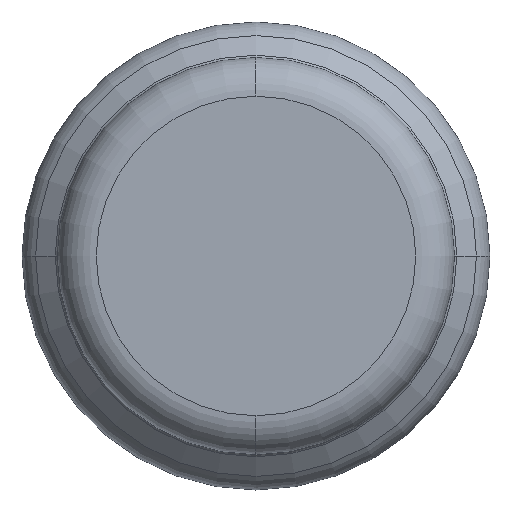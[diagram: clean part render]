
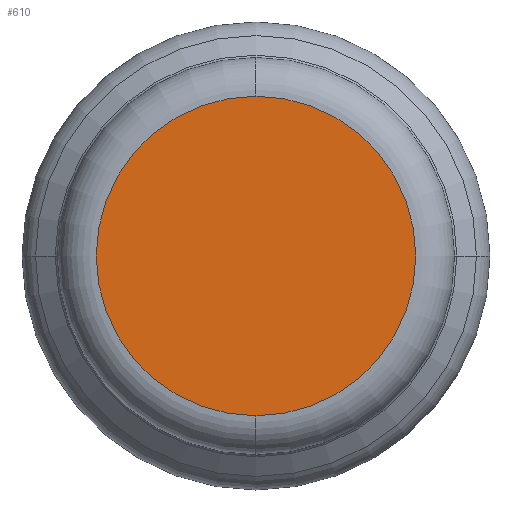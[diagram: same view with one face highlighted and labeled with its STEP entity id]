
A CAD part, front view. The second image highlights one B-rep face of the part: STEP entity #610.
In plain terms, the highlighted planar face has unit normal (0, -1, 0).
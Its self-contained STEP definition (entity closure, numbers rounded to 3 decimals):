
#370=CARTESIAN_POINT('',(24.563,-7.05,0.)
);
#380=DIRECTION('',(0.,-1.,0.));
#390=DIRECTION('',(1.,0.,0.));
#400=AXIS2_PLACEMENT_3D('',#370,#380,#390);
#410=PLANE('',#400);
#420=CARTESIAN_POINT('',(9.65,-7.05,0.));
#430=DIRECTION('',(0.,-1.,0.));
#440=DIRECTION('',(0.,0.,1.));
#450=AXIS2_PLACEMENT_3D('',#420,#430,#440);
#460=CIRCLE('',#450,12.6);
#470=CARTESIAN_POINT('',(9.65,-7.05,12.6));
#480=VERTEX_POINT('',#470);
#490=CARTESIAN_POINT('',(9.65,-7.05,-12.6));
#500=VERTEX_POINT('',#490);
#510=EDGE_CURVE('',#480,#500,#460,.T.);
#520=ORIENTED_EDGE('',*,*,#510,.T.);
#530=CARTESIAN_POINT('',(22.25,-7.05,0.));
#540=VERTEX_POINT('',#530);
#550=EDGE_CURVE('',#540,#480,#460,.T.);
#560=ORIENTED_EDGE('',*,*,#550,.T.);
#570=EDGE_CURVE('',#500,#540,#460,.T.);
#580=ORIENTED_EDGE('',*,*,#570,.T.);
#590=EDGE_LOOP('',(#580,#560,#520));
#600=FACE_OUTER_BOUND('',#590,.T.);
#610=ADVANCED_FACE('',(#600),#410,.T.);
